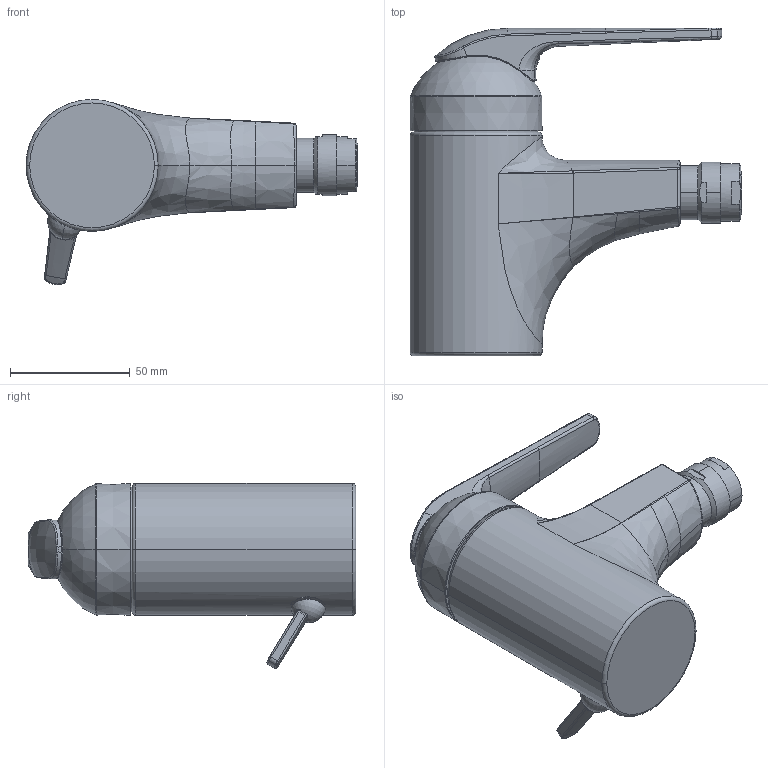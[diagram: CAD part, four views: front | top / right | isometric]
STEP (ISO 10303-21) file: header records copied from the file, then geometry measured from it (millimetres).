
FILE_DESCRIPTION((''),'2;1');
FILE_NAME('13_061_041_XXX','2012-06-05T',('azb9'),(''),'PRO/ENGINEER BY PARAMETRIC TECHNOLOGY CORPORATION, 2011080','PRO/ENGINEER BY PARAMETRIC TECHNOLOGY CORPORATION, 2011080','');
FILE_SCHEMA(('AUTOMOTIVE_DESIGN_CC2 { 1 2 10303 214 -1 1 5 2 }'));
Length unit declared in the file: millimetre
Products named in the file (1): 13_061_041_XXX
Bounding box: 138.3 x 136.54 x 77.19 mm (x, y, z)
Volume: 390610.9 mm3; surface area: 42783.5 mm2
Topology: 1 solids, 5 shells, 388 faces, 983 edges, 613 vertices
Faces by surface type: plane 176, bspline 117, cylinder 48, torus 26, sphere 12, cone 7, revolution 2
Entity records: 23112 total; most frequent: CARTESIAN_POINT 10447, ORIENTED_EDGE 1962, DIRECTION 1657, EDGE_CURVE 981, AXIS2_PLACEMENT_3D 649, FILL_AREA_STYLE_COLOUR 640, FILL_AREA_STYLE 640, SURFACE_STYLE_FILL_AREA 640
